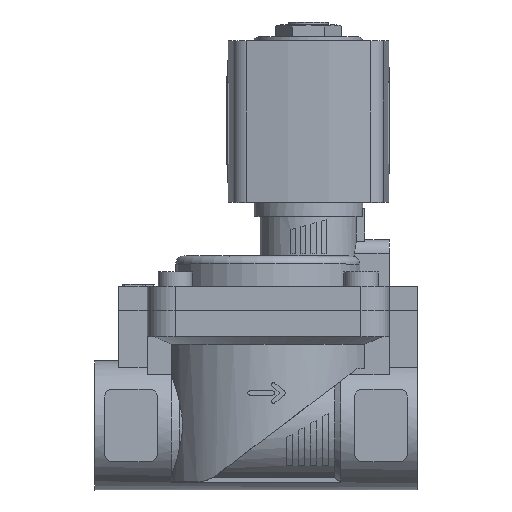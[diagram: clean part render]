
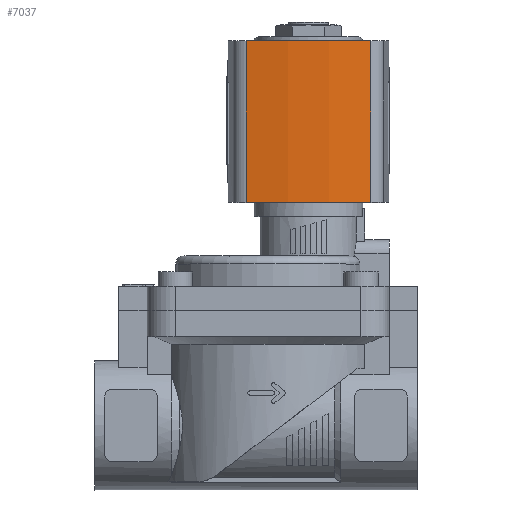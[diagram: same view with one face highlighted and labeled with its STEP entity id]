
A CAD part, top view. The second image highlights one B-rep face of the part: STEP entity #7037.
In plain terms, the highlighted cylindrical face has radius 80 mm (diameter 160 mm), a partial arc.
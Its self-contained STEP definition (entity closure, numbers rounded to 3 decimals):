
#253=CYLINDRICAL_SURFACE('',#7640,80.);
#668=LINE('',#11136,#1174);
#669=LINE('',#11140,#1175);
#1174=VECTOR('',#9154,1000.);
#1175=VECTOR('',#9159,1000.);
#2615=ORIENTED_EDGE('',*,*,#3654,.T.);
#2616=ORIENTED_EDGE('',*,*,#3655,.F.);
#2617=ORIENTED_EDGE('',*,*,#3602,.F.);
#2618=ORIENTED_EDGE('',*,*,#3653,.T.);
#3602=EDGE_CURVE('',#4230,#4231,#4513,.T.);
#3653=EDGE_CURVE('',#4230,#4274,#668,.T.);
#3654=EDGE_CURVE('',#4274,#4275,#4534,.T.);
#3655=EDGE_CURVE('',#4231,#4275,#669,.T.);
#4230=VERTEX_POINT('',#11036);
#4231=VERTEX_POINT('',#11037);
#4274=VERTEX_POINT('',#11135);
#4275=VERTEX_POINT('',#11139);
#4513=CIRCLE('',#7606,80.);
#4534=CIRCLE('',#7641,80.);
#4855=EDGE_LOOP('',(#2615,#2616,#2617,#2618));
#5251=FACE_BOUND('',#4855,.T.);
#7037=ADVANCED_FACE('',(#5251),#253,.T.);
#7606=AXIS2_PLACEMENT_3D('',#11035,#9064,#9065);
#7640=AXIS2_PLACEMENT_3D('',#11137,#9155,#9156);
#7641=AXIS2_PLACEMENT_3D('',#11138,#9157,#9158);
#9064=DIRECTION('',(0.,1.,0.));
#9065=DIRECTION('',(1.,0.,0.));
#9154=DIRECTION('',(0.,-1.,0.));
#9155=DIRECTION('',(0.,-1.,0.));
#9156=DIRECTION('',(0.,0.,-1.));
#9157=DIRECTION('',(0.,1.,0.));
#9158=DIRECTION('',(1.,0.,0.));
#9159=DIRECTION('',(0.,-1.,0.));
#11035=CARTESIAN_POINT('',(-56.5,14.,0.));
#11036=CARTESIAN_POINT('',(21.99,14.,15.472));
#11037=CARTESIAN_POINT('',(21.99,14.,-15.472));
#11135=CARTESIAN_POINT('',(21.99,-26.,15.472));
#11136=CARTESIAN_POINT('',(21.99,14.,15.472));
#11137=CARTESIAN_POINT('',(-56.5,14.,0.));
#11138=CARTESIAN_POINT('',(-56.5,-26.,0.));
#11139=CARTESIAN_POINT('',(21.99,-26.,-15.472));
#11140=CARTESIAN_POINT('',(21.99,14.,-15.472));
